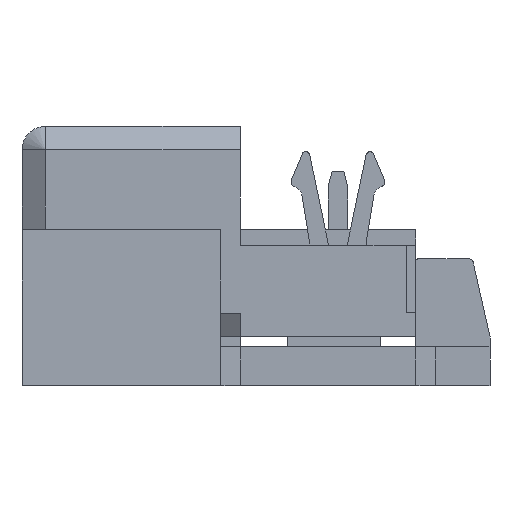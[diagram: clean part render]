
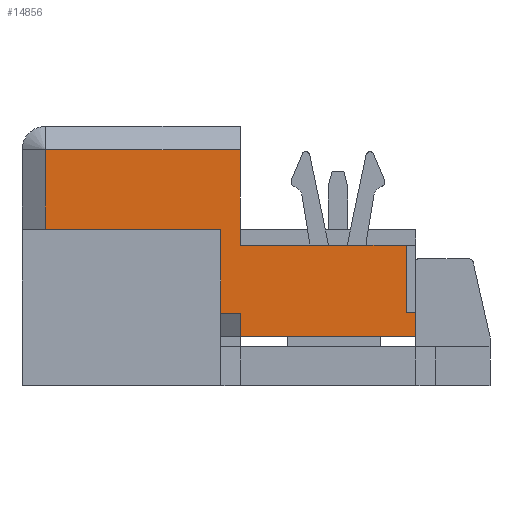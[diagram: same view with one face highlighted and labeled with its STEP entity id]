
A CAD part, front view. The second image highlights one B-rep face of the part: STEP entity #14856.
In plain terms, the highlighted planar face has unit normal (0, -1, 0).
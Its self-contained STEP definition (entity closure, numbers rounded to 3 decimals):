
#1=DIRECTION('',(0.,0.,-1.));
#2=VECTOR('',#1,1.73);
#3=CARTESIAN_POINT('',(-0.25,0.,0.));
#4=LINE('',#3,#2);
#5=DIRECTION('',(1.,0.,0.));
#6=VECTOR('',#5,0.25);
#7=CARTESIAN_POINT('',(-0.25,0.,-1.73));
#8=LINE('',#7,#6);
#9=DIRECTION('',(0.,0.,-1.));
#10=VECTOR('',#9,0.62);
#11=CARTESIAN_POINT('',(0.,0.,-1.73));
#12=LINE('',#11,#10);
#13=DIRECTION('',(-1.,0.,0.));
#14=VECTOR('',#13,4.5);
#15=CARTESIAN_POINT('',(0.,0.,-2.35));
#16=LINE('',#15,#14);
#17=DIRECTION('',(0.,0.,1.));
#18=VECTOR('',#17,0.6);
#19=CARTESIAN_POINT('',(-4.5,0.,-2.35));
#20=LINE('',#19,#18);
#21=DIRECTION('',(-1.,0.,0.));
#22=VECTOR('',#21,5.);
#23=CARTESIAN_POINT('',(-4.5,0.,-1.75));
#24=LINE('',#23,#22);
#25=DIRECTION('',(0.,0.,1.));
#26=VECTOR('',#25,4.2);
#27=CARTESIAN_POINT('',(-9.5,0.,
-1.75));
#28=LINE('',#27,#26);
#29=DIRECTION('',(1.,0.,0.));
#30=VECTOR('',#29,5.);
#31=CARTESIAN_POINT('',(-9.5,0.,
2.45));
#32=LINE('',#31,#30);
#33=DIRECTION('',(0.,0.,-1.));
#34=VECTOR('',#33,2.45);
#35=CARTESIAN_POINT('',(-4.5,0.,2.45));
#36=LINE('',#35,#34);
#37=DIRECTION('',(1.,0.,0.));
#38=VECTOR('',#37,4.25);
#39=CARTESIAN_POINT('',(-4.5,0.,0.));
#40=LINE('',#39,#38);
#11373=CARTESIAN_POINT('',(-0.25,0.,0.));
#11374=CARTESIAN_POINT('',(-0.25,0.,-1.73));
#11375=VERTEX_POINT('',#11373);
#11376=VERTEX_POINT('',#11374);
#11377=CARTESIAN_POINT('',(0.,0.,-1.73));
#11378=VERTEX_POINT('',#11377);
#11379=CARTESIAN_POINT('',(0.,0.,-2.35));
#11380=VERTEX_POINT('',#11379);
#11381=CARTESIAN_POINT('',(-4.5,0.,-2.35));
#11382=VERTEX_POINT('',#11381);
#11383=CARTESIAN_POINT('',(-4.5,0.,-1.75));
#11384=VERTEX_POINT('',#11383);
#11385=CARTESIAN_POINT('',(-9.5,0.,
-1.75));
#11386=VERTEX_POINT('',#11385);
#11387=CARTESIAN_POINT('',(-9.5,0.,
2.45));
#11388=VERTEX_POINT('',#11387);
#11389=CARTESIAN_POINT('',(-4.5,0.,2.45));
#11390=VERTEX_POINT('',#11389);
#11391=CARTESIAN_POINT('',(-4.5,0.,0.));
#11392=VERTEX_POINT('',#11391);
#14829=CARTESIAN_POINT('',(-4.75,0.,0.05));
#14830=DIRECTION('',(0.,1.,0.));
#14831=DIRECTION('',(1.,0.,0.));
#14832=AXIS2_PLACEMENT_3D('',#14829,#14830,#14831);
#14833=PLANE('',#14832);
#14835=ORIENTED_EDGE('',*,*,#14834,.T.);
#14837=ORIENTED_EDGE('',*,*,#14836,.T.);
#14839=ORIENTED_EDGE('',*,*,#14838,.T.);
#14841=ORIENTED_EDGE('',*,*,#14840,.T.);
#14843=ORIENTED_EDGE('',*,*,#14842,.T.);
#14845=ORIENTED_EDGE('',*,*,#14844,.T.);
#14847=ORIENTED_EDGE('',*,*,#14846,.T.);
#14849=ORIENTED_EDGE('',*,*,#14848,.T.);
#14851=ORIENTED_EDGE('',*,*,#14850,.T.);
#14853=ORIENTED_EDGE('',*,*,#14852,.T.);
#14854=EDGE_LOOP('',(#14835,#14837,#14839,#14841,#14843,#14845,#14847,#14849,
#14851,#14853));
#14855=FACE_OUTER_BOUND('',#14854,.F.);
#14856=ADVANCED_FACE('',(#14855),#14833,.F.);
#14834=EDGE_CURVE('',#11375,#11376,#4,.T.);
#14836=EDGE_CURVE('',#11376,#11378,#8,.T.);
#14838=EDGE_CURVE('',#11378,#11380,#12,.T.);
#14840=EDGE_CURVE('',#11380,#11382,#16,.T.);
#14842=EDGE_CURVE('',#11382,#11384,#20,.T.);
#14844=EDGE_CURVE('',#11384,#11386,#24,.T.);
#14846=EDGE_CURVE('',#11386,#11388,#28,.T.);
#14848=EDGE_CURVE('',#11388,#11390,#32,.T.);
#14850=EDGE_CURVE('',#11390,#11392,#36,.T.);
#14852=EDGE_CURVE('',#11392,#11375,#40,.T.);
